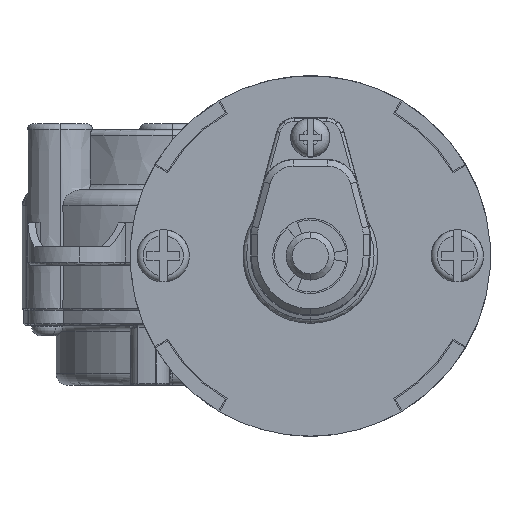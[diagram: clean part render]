
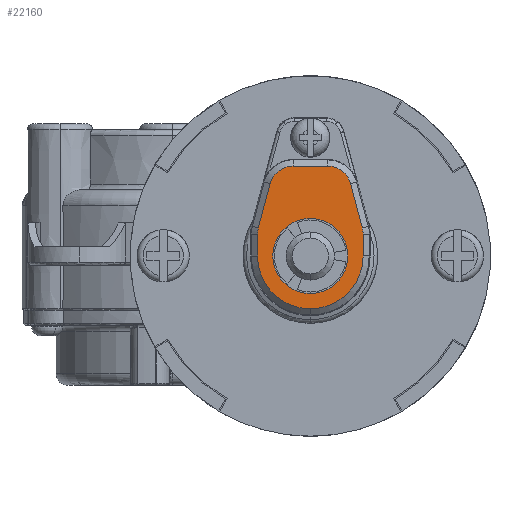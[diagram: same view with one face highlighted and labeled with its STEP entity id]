
A CAD part, left-side view. The second image highlights one B-rep face of the part: STEP entity #22160.
In plain terms, the highlighted planar face has unit normal (-1, 0, 0).
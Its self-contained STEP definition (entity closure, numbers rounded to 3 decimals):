
#535 = EDGE_CURVE ( 'NONE', #20696, #32796, #21047, .T. ) ;
#1160 = EDGE_CURVE ( 'NONE', #10761, #18472, #34154, .T. ) ;
#1387 = EDGE_CURVE ( 'NONE', #5344, #31229, #12928, .T. ) ;
#1645 = CARTESIAN_POINT ( 'NONE',  ( -128.5, -20.144, 14.973 ) ) ;
#1763 = ORIENTED_EDGE ( 'NONE', *, *, #32022, .T. ) ;
#2125 = DIRECTION ( 'NONE',  ( 0., 0., 1. ) ) ;
#2881 = DIRECTION ( 'NONE',  ( 0., 0., 1. ) ) ;
#2918 = DIRECTION ( 'NONE',  ( -1., 0., 0. ) ) ;
#2973 = CARTESIAN_POINT ( 'NONE',  ( -128.5, -23., 0. ) ) ;
#3145 = EDGE_CURVE ( 'NONE', #34434, #14640, #10010, .T. ) ;
#3356 = CARTESIAN_POINT ( 'NONE',  ( -128.5, -29., 13.588 ) ) ;
#4102 = CARTESIAN_POINT ( 'NONE',  ( -128.5, -18.466, 14.713 ) ) ;
#4338 = CARTESIAN_POINT ( 'NONE',  ( -128.5, -31.655, 4.685 ) ) ;
#4520 = CARTESIAN_POINT ( 'NONE',  ( -128.5, -53.156, 6.5 ) ) ;
#4609 = VERTEX_POINT ( 'NONE', #13457 ) ;
#5040 = VECTOR ( 'NONE', #16185, 1000. ) ;
#5054 = CARTESIAN_POINT ( 'NONE',  ( -128.5, -14.21, 3.659 ) ) ;
#5344 = VERTEX_POINT ( 'NONE', #34193 ) ;
#5429 = AXIS2_PLACEMENT_3D ( 'NONE', #4520, #24967, #7829 ) ;
#5766 = ORIENTED_EDGE ( 'NONE', *, *, #1387, .T. ) ;
#5777 = DIRECTION ( 'NONE',  ( -1., 0., 0. ) ) ;
#7018 = CARTESIAN_POINT ( 'NONE',  ( -128.5, -16.527, 12.883 ) ) ;
#7829 = DIRECTION ( 'NONE',  ( 0., 0., 1. ) ) ;
#8015 = EDGE_CURVE ( 'NONE', #32796, #23521, #27576, .T. ) ;
#8100 = EDGE_LOOP ( 'NONE', ( #37258, #14767 ) ) ;
#8419 = CARTESIAN_POINT ( 'NONE',  ( -128.5, -31.79, 3.659 ) ) ;
#8471 = CARTESIAN_POINT ( 'NONE',  ( -128.5, -23., 6.25 ) ) ;
#8509 = EDGE_CURVE ( 'NONE', #11633, #20696, #29299, .T. ) ;
#9800 = AXIS2_PLACEMENT_3D ( 'NONE', #2973, #2918, #2881 ) ;
#10010 = LINE ( 'NONE', #24344, #17793 ) ;
#10601 = AXIS2_PLACEMENT_3D ( 'NONE', #36534, #19682, #2125 ) ;
#10761 = VERTEX_POINT ( 'NONE', #8471 ) ;
#11353 = CARTESIAN_POINT ( 'NONE',  ( -128.5, -14.21, 0. ) ) ;
#11633 = VERTEX_POINT ( 'NONE', #13831 ) ;
#11746 = CARTESIAN_POINT ( 'NONE',  ( -128.5, -31.79, 0. ) ) ;
#12472 = DIRECTION ( 'NONE',  ( 0., 0.259, -0.966 ) ) ;
#12578 = VECTOR ( 'NONE', #25692, 1000. ) ;
#12695 = CARTESIAN_POINT ( 'NONE',  ( -128.5, -14.345, 4.685 ) ) ;
#12717 = CARTESIAN_POINT ( 'NONE',  ( -128.5, -17.399, 16.081 ) ) ;
#12877 = ORIENTED_EDGE ( 'NONE', *, *, #25649, .T. ) ;
#12928 = LINE ( 'NONE', #35646, #5040 ) ;
#13358 = AXIS2_PLACEMENT_3D ( 'NONE', #33459, #16644, #36381 ) ;
#13443 = VECTOR ( 'NONE', #12472, 1000. ) ;
#13457 = CARTESIAN_POINT ( 'NONE',  ( -128.5, -23., -8.79 ) ) ;
#13831 = CARTESIAN_POINT ( 'NONE',  ( -128.5, -16.315, 12.035 ) ) ;
#14030 = VERTEX_POINT ( 'NONE', #1645 ) ;
#14640 = VERTEX_POINT ( 'NONE', #8419 ) ;
#14767 = ORIENTED_EDGE ( 'NONE', *, *, #25213, .F. ) ;
#15185 = CARTESIAN_POINT ( 'NONE',  ( -128.5, -26.73, 14.987 ) ) ;
#15647 = ORIENTED_EDGE ( 'NONE', *, *, #535, .T. ) ;
#16057 = CARTESIAN_POINT ( 'NONE',  ( -128.5, -31.79, 4.006 ) ) ;
#16148 = CIRCLE ( 'NONE', #10601, 6.25 ) ;
#16185 = DIRECTION ( 'NONE',  ( 0., 0.259, 0.966 ) ) ;
#16644 = DIRECTION ( 'NONE',  ( -1., 0., 0. ) ) ;
#16776 = CARTESIAN_POINT ( 'NONE',  ( -128.5, -23., -6.25 ) ) ;
#17150 = EDGE_CURVE ( 'NONE', #14030, #11633, #30017, .T. ) ;
#17793 = VECTOR ( 'NONE', #24573, 1000. ) ;
#18065 = VECTOR ( 'NONE', #36044, 1000. ) ;
#18472 = VERTEX_POINT ( 'NONE', #16776 ) ;
#18715 = CARTESIAN_POINT ( 'NONE',  ( -128.5, -20.144, 14.973 ) ) ;
#18908 = ORIENTED_EDGE ( 'NONE', *, *, #23269, .T. ) ;
#19014 = ORIENTED_EDGE ( 'NONE', *, *, #8509, .T. ) ;
#19369 = PLANE ( 'NONE',  #5429 ) ;
#19682 = DIRECTION ( 'NONE',  ( -1., 0., 0. ) ) ;
#20420 = EDGE_CURVE ( 'NONE', #4609, #34434, #37182, .T. ) ;
#20696 = VERTEX_POINT ( 'NONE', #12695 ) ;
#21047 = B_SPLINE_CURVE_WITH_KNOTS ( 'NONE', 3,
 ( #35558, #35777, #35805, #35531 ),
 .UNSPECIFIED., .F., .F.,
 ( 4, 4 ),
 ( 0., 1. ),
 .UNSPECIFIED. ) ;
#21666 = FACE_OUTER_BOUND ( 'NONE', #23045, .T. ) ;
#21772 = CARTESIAN_POINT ( 'NONE',  ( -128.5, -31.745, 4.348 ) ) ;
#22160 = ADVANCED_FACE ( 'NONE', ( #21666, #28144 ), #19369, .T. ) ;
#23045 = EDGE_LOOP ( 'NONE', ( #27820, #1763, #5766, #18908, #29732, #23411, #19014, #15647, #29792, #12877, #30818 ) ) ;
#23110 = CARTESIAN_POINT ( 'NONE',  ( -128.5, -23., 0. ) ) ;
#23269 = EDGE_CURVE ( 'NONE', #31229, #28710, #32582, .T. ) ;
#23411 = ORIENTED_EDGE ( 'NONE', *, *, #17150, .T. ) ;
#23416 = CIRCLE ( 'NONE', #13358, 8.79 ) ;
#23450 = EDGE_CURVE ( 'NONE', #28710, #14030, #25384, .T. ) ;
#23521 = VERTEX_POINT ( 'NONE', #11353 ) ;
#24232 = CARTESIAN_POINT ( 'NONE',  ( -128.5, -17., 13.589 ) ) ;
#24344 = CARTESIAN_POINT ( 'NONE',  ( -128.5, -31.79, 3.656 ) ) ;
#24573 = DIRECTION ( 'NONE',  ( 0., 0., 1. ) ) ;
#24967 = DIRECTION ( 'NONE',  ( -1., 0., 0. ) ) ;
#25213 = EDGE_CURVE ( 'NONE', #18472, #10761, #16148, .T. ) ;
#25384 = LINE ( 'NONE', #30250, #18065 ) ;
#25649 = EDGE_CURVE ( 'NONE', #23521, #4609, #23416, .T. ) ;
#25692 = DIRECTION ( 'NONE',  ( 0., 0., -1. ) ) ;
#25822 = DIRECTION ( 'NONE',  ( 0., 0., 1. ) ) ;
#25934 = CARTESIAN_POINT ( 'NONE',  ( -128.5, -14.21, 6.5 ) ) ;
#26944 = CARTESIAN_POINT ( 'NONE',  ( -128.5, -19.27, 14.987 ) ) ;
#27073 = CARTESIAN_POINT ( 'NONE',  ( -128.5, -16.315, 12.035 ) ) ;
#27188 = CARTESIAN_POINT ( 'NONE',  ( -128.5, -31.79, 3.659 ) ) ;
#27576 = LINE ( 'NONE', #25934, #12578 ) ;
#27820 = ORIENTED_EDGE ( 'NONE', *, *, #3145, .T. ) ;
#28144 = FACE_BOUND ( 'NONE', #8100, .T. ) ;
#28710 = VERTEX_POINT ( 'NONE', #30746 ) ;
#29048 = CARTESIAN_POINT ( 'NONE',  ( -128.5, -29.473, 12.883 ) ) ;
#29173 = CARTESIAN_POINT ( 'NONE',  ( -128.5, -29.685, 12.035 ) ) ;
#29299 = LINE ( 'NONE', #12717, #13443 ) ;
#29732 = ORIENTED_EDGE ( 'NONE', *, *, #23450, .T. ) ;
#29792 = ORIENTED_EDGE ( 'NONE', *, *, #8015, .T. ) ;
#30017 = B_SPLINE_CURVE_WITH_KNOTS ( 'NONE', 3,
 ( #18715, #26944, #4102, #24232, #7018, #27073 ),
 .UNSPECIFIED., .F., .F.,
 ( 4, 2, 4 ),
 ( 0., 0.5, 1. ),
 .UNSPECIFIED. ) ;
#30250 = CARTESIAN_POINT ( 'NONE',  ( -128.5, -20.16, 14.973 ) ) ;
#30746 = CARTESIAN_POINT ( 'NONE',  ( -128.5, -25.856, 14.973 ) ) ;
#30818 = ORIENTED_EDGE ( 'NONE', *, *, #20420, .T. ) ;
#31229 = VERTEX_POINT ( 'NONE', #31299 ) ;
#31299 = CARTESIAN_POINT ( 'NONE',  ( -128.5, -29.685, 12.035 ) ) ;
#31359 = AXIS2_PLACEMENT_3D ( 'NONE', #23110, #5777, #25822 ) ;
#31997 = CARTESIAN_POINT ( 'NONE',  ( -128.5, -27.534, 14.713 ) ) ;
#32022 = EDGE_CURVE ( 'NONE', #14640, #5344, #35979, .T. ) ;
#32582 = B_SPLINE_CURVE_WITH_KNOTS ( 'NONE', 3,
 ( #29173, #29048, #3356, #31997, #15185, #34947 ),
 .UNSPECIFIED., .F., .F.,
 ( 4, 2, 4 ),
 ( 0., 0.5, 1. ),
 .UNSPECIFIED. ) ;
#32796 = VERTEX_POINT ( 'NONE', #5054 ) ;
#33459 = CARTESIAN_POINT ( 'NONE',  ( -128.5, -23., 0. ) ) ;
#34154 = CIRCLE ( 'NONE', #9800, 6.25 ) ;
#34193 = CARTESIAN_POINT ( 'NONE',  ( -128.5, -31.655, 4.685 ) ) ;
#34434 = VERTEX_POINT ( 'NONE', #11746 ) ;
#34947 = CARTESIAN_POINT ( 'NONE',  ( -128.5, -25.856, 14.973 ) ) ;
#35531 = CARTESIAN_POINT ( 'NONE',  ( -128.5, -14.21, 3.659 ) ) ;
#35558 = CARTESIAN_POINT ( 'NONE',  ( -128.5, -14.345, 4.685 ) ) ;
#35646 = CARTESIAN_POINT ( 'NONE',  ( -128.5, -29.687, 12.031 ) ) ;
#35777 = CARTESIAN_POINT ( 'NONE',  ( -128.5, -14.255, 4.348 ) ) ;
#35805 = CARTESIAN_POINT ( 'NONE',  ( -128.5, -14.21, 4.006 ) ) ;
#35979 = B_SPLINE_CURVE_WITH_KNOTS ( 'NONE', 3,
 ( #27188, #16057, #21772, #4338 ),
 .UNSPECIFIED., .F., .F.,
 ( 4, 4 ),
 ( 0., 1. ),
 .UNSPECIFIED. ) ;
#36044 = DIRECTION ( 'NONE',  ( 0., 1., 0. ) ) ;
#36381 = DIRECTION ( 'NONE',  ( 0., 0., 1. ) ) ;
#36534 = CARTESIAN_POINT ( 'NONE',  ( -128.5, -23., 0. ) ) ;
#37182 = CIRCLE ( 'NONE', #31359, 8.79 ) ;
#37258 = ORIENTED_EDGE ( 'NONE', *, *, #1160, .F. ) ;
